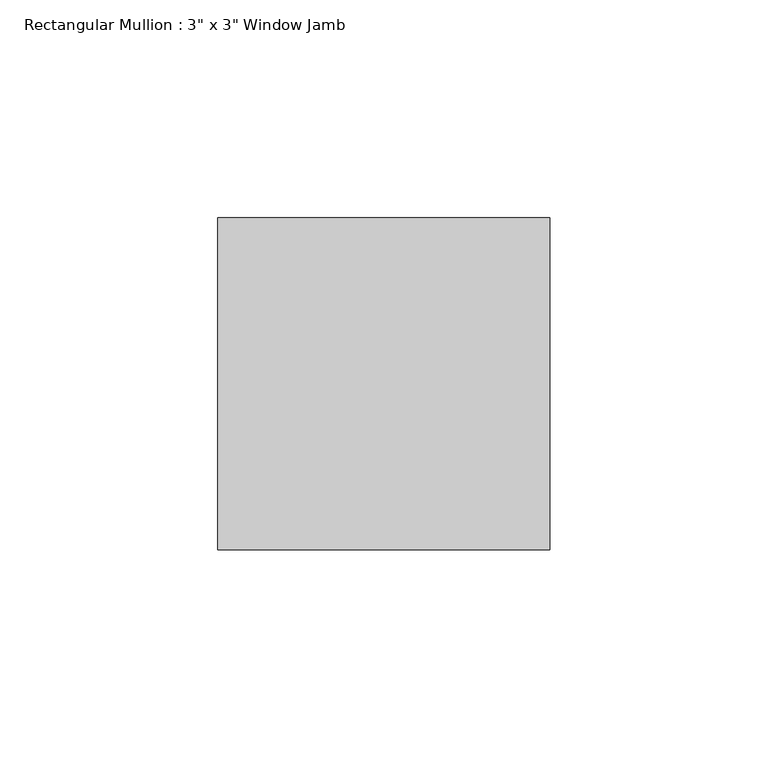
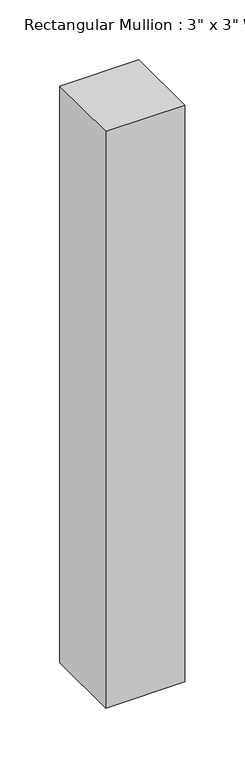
"""IFC4 building model written with IfcOpenShell, lengths in millimetres: member geometry."""

from ifc_helpers import new_model, si_unit, frame, origin, place, context, project, spatial, polyline, outline, extrude, source, transform, mapped, element, save


def member_141a1acd(model_context):
    return source(origin(), model_context, "Body", "SweptSolid", [
        extrude(outline(polyline([(0.0, 50.8), (0.0, -25.4), (-76.2, -25.4), (-76.2, 50.8), (0.0, 50.8)])), frame((0.0, 0.0, -587.5848817), z_axis=(0.0, 0.0, 1.0), x_axis=(1.0, 0.0, 0.0)), (0.0, 0.0, 1.0), 587.5848817),
    ])


if __name__ == "__main__":
    model = new_model("IFC4")
    model_context = context("Model", 3, world=origin())
    ifc_project = project(units=[si_unit("LENGTHUNIT", "METRE", prefix="MILLI")], contexts=[model_context])
    site = spatial("IfcSite", under=ifc_project)
    building = spatial("IfcBuilding", under=site)
    placement = place(None, origin())
    member_shape = member_141a1acd(model_context)
    element("IfcMember", 1, ObjectType="Rectangular Mullion : 3\" x 3\" Window Jamb", at=placement, inside=building, context=model_context, shape_type="MappedRepresentation", body=[
        mapped(member_shape, transform((0.0, 0.0, 0.0), x_axis=(1.0, 0.0, 0.0), y_axis=(0.0, 1.0, 0.0), z_axis=(0.0, 0.0, 1.0))),
    ])
    save(model, "model.ifc")
